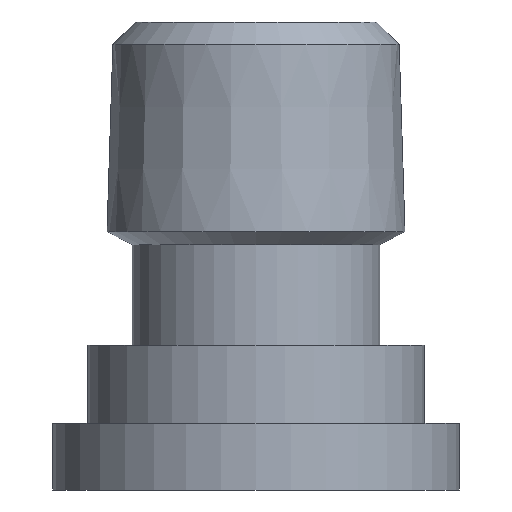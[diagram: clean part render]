
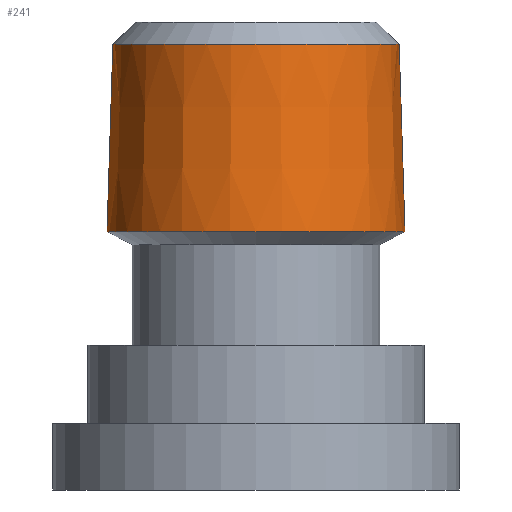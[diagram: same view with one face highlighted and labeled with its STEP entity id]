
A CAD part, left-side view. The second image highlights one B-rep face of the part: STEP entity #241.
In plain terms, the highlighted conical face has half-angle 1.78 degrees and reference radius 6.554 mm.
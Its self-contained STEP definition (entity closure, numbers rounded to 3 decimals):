
#183=CARTESIAN_POINT('',(0.0,6.684,-20.659));
#184=VERTEX_POINT('',#183);
#192=CARTESIAN_POINT('',(0.,-6.684,-20.659));
#193=VERTEX_POINT('',#192);
#200=CARTESIAN_POINT('',(0.0,0.0,-20.659));
#201=DIRECTION('',(0.0,0.0,-1.0));
#202=DIRECTION('',(0.0,1.0,0.0));
#203=AXIS2_PLACEMENT_3D('',#200,#201,#202);
#204=CIRCLE('',#203,6.684);
#205=EDGE_CURVE('',#193,#184,#204,.T.);
#210=CARTESIAN_POINT('',(0.0,0.0,-16.455));
#211=DIRECTION('',(0.0,0.0,-1.0));
#212=DIRECTION('',(0.0,1.0,0.0));
#213=AXIS2_PLACEMENT_3D('',#210,#211,#212);
#214=CONICAL_SURFACE('',#213,6.554,1.78);
#215=CARTESIAN_POINT('',(0.0,6.423,-12.25));
#216=VERTEX_POINT('',#215);
#217=CARTESIAN_POINT('',(0.0,6.684,-20.659));
#218=DIRECTION('',(0.0,-0.031,1.));
#219=VECTOR('',#218,8.414);
#220=LINE('',#217,#219);
#221=EDGE_CURVE('',#184,#216,#220,.T.);
#222=ORIENTED_EDGE('',*,*,#221,.F.);
#223=ORIENTED_EDGE('',*,*,#205,.F.);
#224=CARTESIAN_POINT('',(0.,-6.423,-12.25));
#225=VERTEX_POINT('',#224);
#226=CARTESIAN_POINT('',(0.,-6.684,-20.659));
#227=DIRECTION('',(0.,0.031,1.));
#228=VECTOR('',#227,8.414);
#229=LINE('',#226,#228);
#230=EDGE_CURVE('',#193,#225,#229,.T.);
#231=ORIENTED_EDGE('',*,*,#230,.T.);
#232=CARTESIAN_POINT('',(0.0,0.0,-12.25));
#233=DIRECTION('',(0.0,0.0,-1.0));
#234=DIRECTION('',(0.0,1.0,0.0));
#235=AXIS2_PLACEMENT_3D('',#232,#233,#234);
#236=CIRCLE('',#235,6.423);
#237=EDGE_CURVE('',#225,#216,#236,.T.);
#238=ORIENTED_EDGE('',*,*,#237,.T.);
#239=EDGE_LOOP('',(#222,#223,#231,#238));
#240=FACE_OUTER_BOUND('',#239,.T.);
#241=ADVANCED_FACE('',(#240),#214,.T.);
